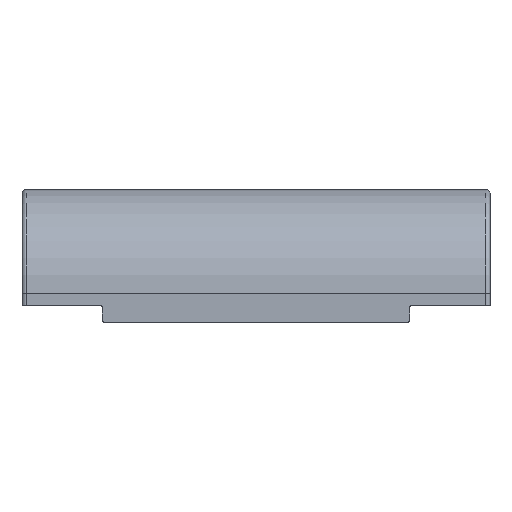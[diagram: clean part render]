
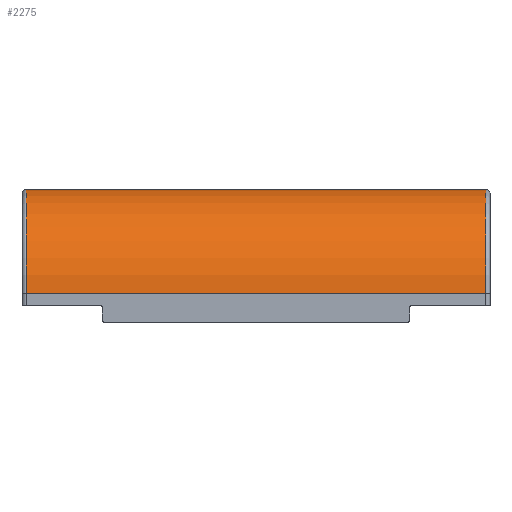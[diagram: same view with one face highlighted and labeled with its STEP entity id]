
A CAD part, top view. The second image highlights one B-rep face of the part: STEP entity #2275.
In plain terms, the highlighted cylindrical face has radius 25 mm (diameter 50 mm), a partial arc.
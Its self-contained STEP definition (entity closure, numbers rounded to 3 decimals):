
#73 = CARTESIAN_POINT ( 'NONE',  ( -1., 0., 1. ) ) ;
#84 = VERTEX_POINT ( 'NONE', #6091 ) ;
#348 = CYLINDRICAL_SURFACE ( 'NONE', #2346, 25. ) ;
#658 = CARTESIAN_POINT ( 'NONE',  ( -112.5, 0., 26. ) ) ;
#1178 = EDGE_CURVE ( 'NONE', #84, #2218, #1626, .T. ) ;
#1352 = ORIENTED_EDGE ( 'NONE', *, *, #7558, .T. ) ;
#1626 = CIRCLE ( 'NONE', #2112, 25. ) ;
#1691 = VERTEX_POINT ( 'NONE', #7254 ) ;
#2041 = DIRECTION ( 'NONE',  ( 1., 0., 0. ) ) ;
#2112 = AXIS2_PLACEMENT_3D ( 'NONE', #73, #8178, #2829 ) ;
#2218 = VERTEX_POINT ( 'NONE', #3803 ) ;
#2275 = ADVANCED_FACE ( 'NONE', ( #3942 ), #348, .T. ) ;
#2346 = AXIS2_PLACEMENT_3D ( 'NONE', #8139, #5459, #6129 ) ;
#2385 = EDGE_CURVE ( 'NONE', #1691, #2218, #7485, .T. ) ;
#2724 = CIRCLE ( 'NONE', #6248, 25. ) ;
#2808 = EDGE_LOOP ( 'NONE', ( #5158, #4945, #1352, #5753 ) ) ;
#2829 = DIRECTION ( 'NONE',  ( 0., 0., 1. ) ) ;
#3361 = CARTESIAN_POINT ( 'NONE',  ( -111.5, 0., 1. ) ) ;
#3583 = CARTESIAN_POINT ( 'NONE',  ( -112.5, 25., 1. ) ) ;
#3803 = CARTESIAN_POINT ( 'NONE',  ( -1., 25., 1. ) ) ;
#3942 = FACE_OUTER_BOUND ( 'NONE', #2808, .T. ) ;
#4182 = VECTOR ( 'NONE', #2041, 1000. ) ;
#4945 = ORIENTED_EDGE ( 'NONE', *, *, #6542, .T. ) ;
#5005 = DIRECTION ( 'NONE',  ( 1., 0., 0. ) ) ;
#5158 = ORIENTED_EDGE ( 'NONE', *, *, #2385, .F. ) ;
#5351 = DIRECTION ( 'NONE',  ( 1., 0., 0. ) ) ;
#5459 = DIRECTION ( 'NONE',  ( 1., 0., 0. ) ) ;
#5753 = ORIENTED_EDGE ( 'NONE', *, *, #1178, .T. ) ;
#6091 = CARTESIAN_POINT ( 'NONE',  ( -1., 0., 26. ) ) ;
#6129 = DIRECTION ( 'NONE',  ( 0., 0., -1. ) ) ;
#6248 = AXIS2_PLACEMENT_3D ( 'NONE', #3361, #5351, #7381 ) ;
#6542 = EDGE_CURVE ( 'NONE', #1691, #8638, #2724, .T. ) ;
#6771 = VECTOR ( 'NONE', #5005, 1000. ) ;
#7254 = CARTESIAN_POINT ( 'NONE',  ( -111.5, 25., 1. ) ) ;
#7381 = DIRECTION ( 'NONE',  ( 0., 0., 1. ) ) ;
#7485 = LINE ( 'NONE', #3583, #6771 ) ;
#7558 = EDGE_CURVE ( 'NONE', #8638, #84, #8363, .T. ) ;
#8139 = CARTESIAN_POINT ( 'NONE',  ( -112.5, 0., 1. ) ) ;
#8178 = DIRECTION ( 'NONE',  ( -1., 0., 0. ) ) ;
#8363 = LINE ( 'NONE', #658, #4182 ) ;
#8425 = CARTESIAN_POINT ( 'NONE',  ( -111.5, 0., 26. ) ) ;
#8638 = VERTEX_POINT ( 'NONE', #8425 ) ;
